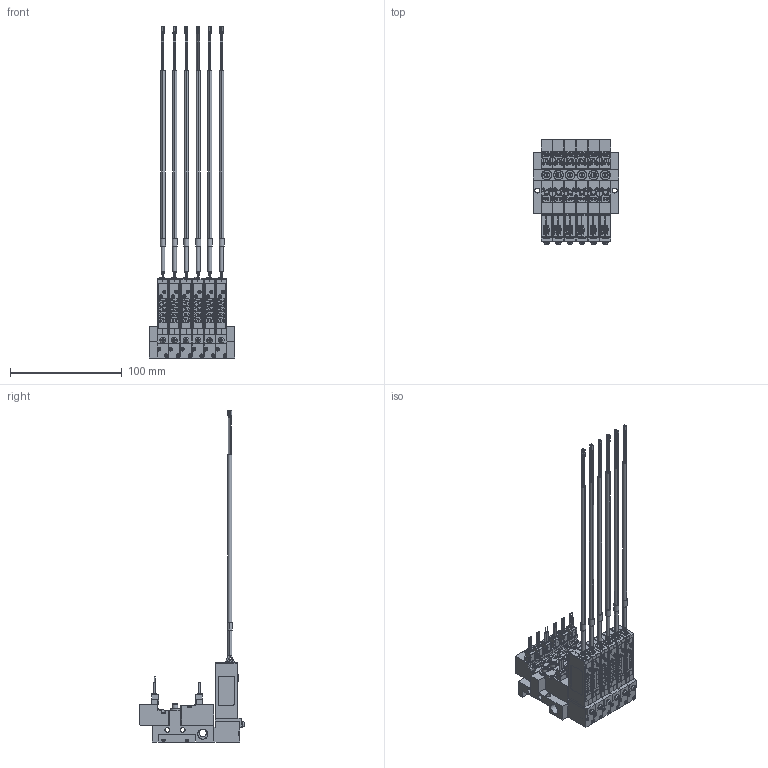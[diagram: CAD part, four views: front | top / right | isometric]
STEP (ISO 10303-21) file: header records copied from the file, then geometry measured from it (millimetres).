
FILE_DESCRIPTION(('STEP AP203'),'1');
FILE_NAME('2-NO(NC)-4EZ-M06-V9.stp','2025-05-09T00:53:09',(' '),(' '),'Spatial InterOp 3D',' ',' ');
FILE_SCHEMA(('CONFIG_CONTROL_DESIGN'));
Length unit declared in the file: millimetre
Products named in the file (176): PV1※2-NO(NC)-4EZ-M06-V9; BODY; PLATE; NEEDLE; BOLT; SOLENOID VALVE VOLTAGE PV; 42; 45; 48; 51; BRAKET(MPS-V9  PV용)NEW; BRAKET; MPS-V9AC.ics; __1; MPS-V9AC; MSBR-29_1; MSBR-28_1; MSBR-27_1; MSBR-26_1; MSBR-25_1; MSBR-24_1; MSBR-21_1; MSBR-7_1; MSBR-4_1; MSBR-1_1; SOLENOID VALVE VOLTAGE PV-NC2
Assembly tree (175 placements, depth 5):
  PV1※2-NO(NC)-4EZ-M06-V9
    BODY
    PLATE
    PLATE
    NEEDLE
    BOLT
    BOLT
    BOLT
    BOLT
    BOLT
    BOLT
    SOLENOID VALVE VOLTAGE PV
      42
      45
      48
      51
    NEEDLE
    SOLENOID VALVE VOLTAGE PV
      42
      45
      48
      51
    NEEDLE
    SOLENOID VALVE VOLTAGE PV
      42
      45
      48
      51
    PLATE
    BOLT
    BOLT
    BOLT
    PLATE
    BOLT
    BOLT
    BOLT
    NEEDLE
    SOLENOID VALVE VOLTAGE PV
      42
      45
      48
      51
    NEEDLE
    SOLENOID VALVE VOLTAGE PV
      42
      45
      48
      51
    PLATE
    BOLT
    BOLT
    BOLT
    SOLENOID VALVE VOLTAGE PV
      42
      45
      48
      51
    NEEDLE
    PLATE
    BOLT
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Bounding box: 76.5 x 94.29 x 297.25 mm (x, y, z)
Volume: 168812.5 mm3; surface area: 144998.9 mm2
Topology: 145 solids, 199 shells, 7351 faces, 19976 edges, 13445 vertices
Faces by surface type: plane 5734, cylinder 1237, torus 138, bspline 90, cone 68, extrusion 60, sphere 24
Full cylindrical faces by diameter (mm): 1.4 x12, 2 x18, 2.3 x12, 2.5 x6, 3 x42, 3.5 x6, 4.2 x14, 4.5 x2, 5 x12, 6.5 x1, 8.797 x2, 9 x6
Entity records: 241254 total; most frequent: CARTESIAN_POINT 46403, ORIENTED_EDGE 38624, DIRECTION 37388, EDGE_CURVE 19540, VECTOR 15234, LINE 15174, VERTEX_POINT 13300, AXIS2_PLACEMENT_3D 11077
